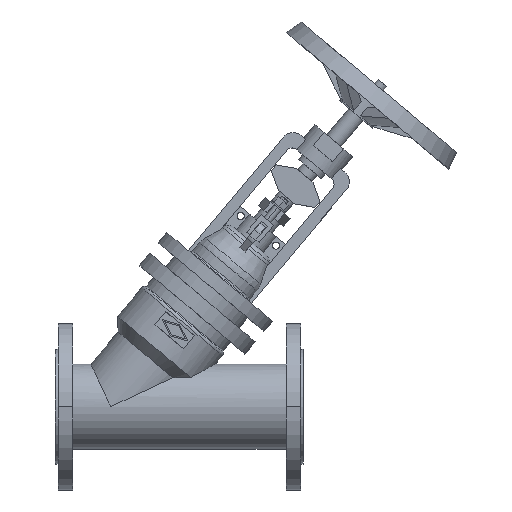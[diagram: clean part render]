
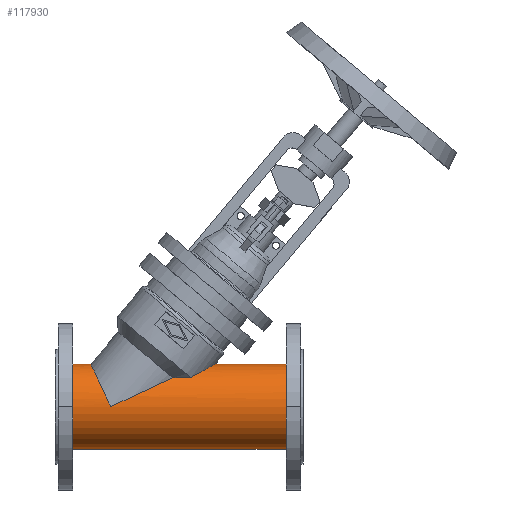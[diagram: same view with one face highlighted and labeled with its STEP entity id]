
A CAD part, top view. The second image highlights one B-rep face of the part: STEP entity #117930.
In plain terms, the highlighted cylindrical face has radius 60 mm (diameter 120 mm), a partial arc.
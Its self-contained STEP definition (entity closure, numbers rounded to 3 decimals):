
#2520=CARTESIAN_POINT('',(191.089,41.013,
43.794));
#2530=CARTESIAN_POINT('',(191.69,41.361,
43.469));
#2540=CARTESIAN_POINT('',(192.287,41.705,
43.138));
#2550=CARTESIAN_POINT('',(195.583,43.6,
41.277));
#2560=CARTESIAN_POINT('',(198.209,45.087,
39.651));
#2570=CARTESIAN_POINT('',(203.774,48.203,
35.829));
#2580=CARTESIAN_POINT('',(206.865,49.91,
33.446));
#2590=CARTESIAN_POINT('',(212.693,53.095,
28.117));
#2600=CARTESIAN_POINT('',(215.43,54.573,
25.171));
#2610=CARTESIAN_POINT('',(220.123,57.092,
18.769));
#2620=CARTESIAN_POINT('',(222.08,58.134,
15.313));
#2630=CARTESIAN_POINT('',(224.817,59.587,
7.962));
#2640=CARTESIAN_POINT('',(225.599,60.,4.07));
#2650=CARTESIAN_POINT('',(225.599,60.,-4.07));
#2660=CARTESIAN_POINT('',(224.817,59.587,
-7.962));
#2670=CARTESIAN_POINT('',(222.08,58.134,
-15.313));
#2680=CARTESIAN_POINT('',(220.123,57.092,
-18.769));
#2690=CARTESIAN_POINT('',(215.43,54.573,
-25.171));
#2700=CARTESIAN_POINT('',(212.693,53.095,
-28.117));
#2710=CARTESIAN_POINT('',(206.865,49.91,
-33.446));
#2720=CARTESIAN_POINT('',(203.774,48.203,
-35.829));
#2730=CARTESIAN_POINT('',(198.209,45.087,
-39.651));
#2740=CARTESIAN_POINT('',(195.583,43.6,
-41.277));
#2750=CARTESIAN_POINT('',(192.287,41.705,
-43.138));
#2760=CARTESIAN_POINT('',(191.69,41.361,
-43.469));
#2770=CARTESIAN_POINT('',(191.089,41.013,
-43.794));
#2780=B_SPLINE_CURVE_WITH_KNOTS('',3,(#2520,#2530,#2540,#2550,#2560,
#2570,#2580,#2590,#2600,#2610,#2620,#2630,#2640,#2650,#2660,#2670,#2680,
#2690,#2700,#2710,#2720,#2730,#2740,#2750,#2760,#2770),.UNSPECIFIED.,.F.
,.F.,(4,2,2,2,2,2,2,2,2,2,2,2,4),(257.184,259.401,
269.497,281.708,293.918,306.129,
318.34,330.551,342.761,354.972,
367.183,377.279,379.496),.UNSPECIFIED.);
#2790=CARTESIAN_POINT('',(225.599,60.,
0.));
#2800=VERTEX_POINT('',#2790);
#3090=CARTESIAN_POINT('',(50.022,60.,
0.));
#3100=VERTEX_POINT('',#3090);
#3130=CARTESIAN_POINT('',(78.,0.,0.));
#3140=DIRECTION('',(0.906,0.423,0.));
#3150=DIRECTION('',(-0.423,0.906,
0.));
#3160=AXIS2_PLACEMENT_3D('',#3130,#3140,#3150);
#3170=ELLIPSE('',#3160,66.203,60.);
#5360=CARTESIAN_POINT('',(175.,0.,0.));
#5370=DIRECTION('',(1.,0.,0.));
#5380=DIRECTION('',(0.,1.,0.));
#5390=AXIS2_PLACEMENT_3D('',#5360,#5370,#5380);
#5400=CYLINDRICAL_SURFACE('',#5390,60.);
#5410=CARTESIAN_POINT('',(175.,60.,0.));
#5420=DIRECTION('',(1.,0.,0.));
#5430=VECTOR('',#5420,1.);
#5440=LINE('',#5410,#5430);
#5450=CARTESIAN_POINT('',(325.57,60.,0.));
#5460=VERTEX_POINT('',#5450);
#5470=EDGE_CURVE('',#2800,#5460,#5440,.T.);
#5530=CARTESIAN_POINT('',(24.43,60.,0.));
#5540=VERTEX_POINT('',#5530);
#5550=EDGE_CURVE('',#5540,#3100,#5440,.T.);
#5570=CARTESIAN_POINT('',(24.43,0.,0.));
#5580=DIRECTION('',(-1.,0.,0.));
#5590=DIRECTION('',(0.,1.,0.));
#5600=AXIS2_PLACEMENT_3D('',#5570,#5580,#5590);
#5610=CIRCLE('',#5600,60.);
#5620=CARTESIAN_POINT('',(24.43,-60.,0.));
#5630=VERTEX_POINT('',#5620);
#5660=CARTESIAN_POINT('',(175.,-60.,0.));
#5670=DIRECTION('',(1.,0.,0.));
#5680=VECTOR('',#5670,1.);
#5690=LINE('',#5660,#5680);
#5700=CARTESIAN_POINT('',(325.57,-60.,0.));
#5710=VERTEX_POINT('',#5700);
#5720=EDGE_CURVE('',#5630,#5710,#5690,.T.);
#5740=CARTESIAN_POINT('',(325.57,0.,0.));
#5750=DIRECTION('',(-1.,0.,0.));
#5760=DIRECTION('',(0.,1.,0.));
#5770=AXIS2_PLACEMENT_3D('',#5740,#5750,#5760);
#5780=CIRCLE('',#5770,60.);
#17570=EDGE_CURVE('',#5710,#5460,#5780,.T.);
#22520=EDGE_CURVE('',#5630,#5540,#5610,.T.);
#111210=CARTESIAN_POINT('',(191.089,41.013,
43.794));
#111220=VERTEX_POINT('',#111210);
#111230=EDGE_CURVE('',#111220,#2800,#2780,.T.);
#114120=CARTESIAN_POINT('',(165.77,40.928,
43.874));
#114130=VERTEX_POINT('',#114120);
#114160=CARTESIAN_POINT('',(78.,0.,0.));
#114170=DIRECTION('',(-0.423,0.906,
0.));
#114180=DIRECTION('',(0.906,0.423,
0.));
#114190=AXIS2_PLACEMENT_3D('',#114160,#114170,#114180);
#114200=ELLIPSE('',#114190,141.972,60.);
#114210=CARTESIAN_POINT('',(78.,0.,60.));
#114220=VERTEX_POINT('',#114210);
#114230=EDGE_CURVE('',#114220,#114130,#114200,.T.);
#114250=EDGE_CURVE('',#3100,#114220,#3170,.T.);
#115680=CARTESIAN_POINT('',(191.089,41.013,
43.794));
#115690=CARTESIAN_POINT('',(190.06,40.984,
43.821));
#115700=CARTESIAN_POINT('',(189.035,40.958,
43.846));
#115710=CARTESIAN_POINT('',(183.989,40.841,
43.954));
#115720=CARTESIAN_POINT('',(180.052,40.794,
43.999));
#115730=CARTESIAN_POINT('',(173.333,40.794,
43.999));
#115740=CARTESIAN_POINT('',(170.292,40.823,
43.972));
#115750=CARTESIAN_POINT('',(166.73,40.903,
43.897));
#115760=CARTESIAN_POINT('',(166.251,40.915,
43.886));
#115770=CARTESIAN_POINT('',(165.77,40.928,
43.874));
#115780=B_SPLINE_CURVE_WITH_KNOTS('',3,(#115680,#115690,#115700,#115710,
#115720,#115730,#115740,#115750,#115760,#115770),.UNSPECIFIED.,.F.,.F.,(
4,2,2,2,4),(30.911,33.758,45.01,
53.917,55.299),.UNSPECIFIED.);
#115790=EDGE_CURVE('',#111220,#114130,#115780,.T.);
#117820=ORIENTED_EDGE('',*,*,#5550,.F.);
#117830=ORIENTED_EDGE('',*,*,#114250,.F.);
#117840=ORIENTED_EDGE('',*,*,#114230,.F.);
#117850=ORIENTED_EDGE('',*,*,#115790,.T.);
#117860=ORIENTED_EDGE('',*,*,#111230,.F.);
#117870=ORIENTED_EDGE('',*,*,#5470,.F.);
#117880=ORIENTED_EDGE('',*,*,#17570,.T.);
#117890=ORIENTED_EDGE('',*,*,#5720,.T.);
#117900=ORIENTED_EDGE('',*,*,#22520,.F.);
#117910=EDGE_LOOP('',(#117900,#117890,#117880,#117870,#117860,#117850,
#117840,#117830,#117820));
#117920=FACE_OUTER_BOUND('',#117910,.T.);
#117930=ADVANCED_FACE('',(#117920),#5400,.T.);
